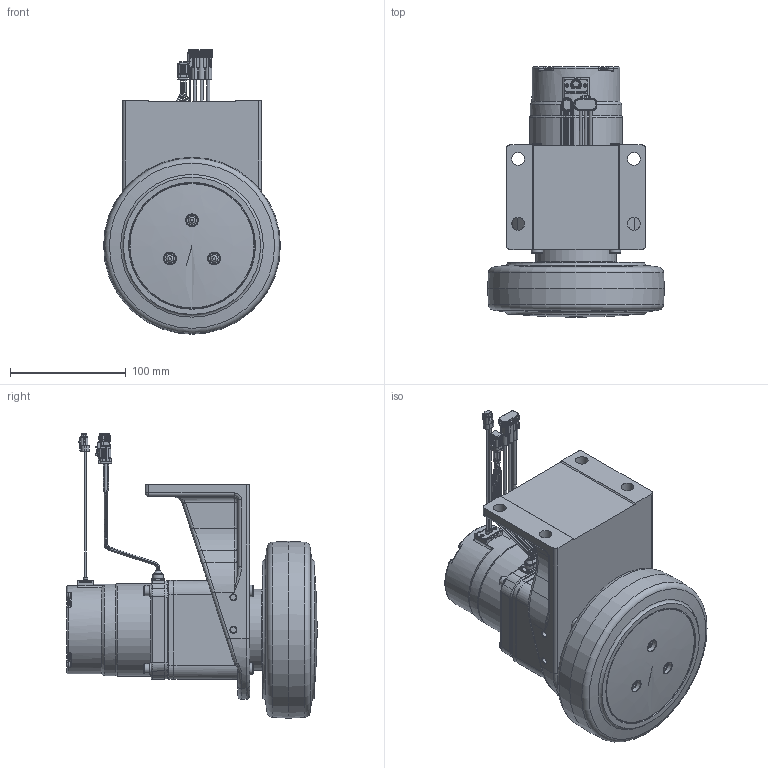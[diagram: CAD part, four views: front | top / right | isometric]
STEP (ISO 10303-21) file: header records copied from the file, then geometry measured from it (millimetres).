
FILE_DESCRIPTION(/* description */ (''),/* implementation_level */ '2;1');
FILE_NAME(/* name */ 'MS94BZF.stp',/* time_stamp */ '2022-10-27T09:42:17+09:00',/* author */ (''),/* organization */ (''),/* preprocessor_version */ 'ST-DEVELOPER v16.7',/* originating_system */ 'SIEMENS PLM Software NX 12.0',/* authorisation */ '');
FILE_SCHEMA (('AUTOMOTIVE_DESIGN { 1 0 10303 214 3 1 1 1 }'));
Products named in the file (6): MS94BZC wheel; MS94BZC_blaket; MS94BZC_Brake-01; MS94BZF_gear; MS94BZC_motor-00; MS94BZF
Assembly tree (5 placements, depth 2):
  MS94BZF
    MS94BZC_motor-00
    MS94BZF_gear
    MS94BZC_Brake-01
    MS94BZC_blaket
    MS94BZC wheel
Bounding box: 152.5 x 215.7 x 245.25 mm (x, y, z)
Volume: 1936412.8 mm3; surface area: 283333.9 mm2
Topology: 7 solids, 20 shells, 2580 faces, 6263 edges, 3785 vertices
Faces by surface type: cylinder 986, plane 909, torus 326, bspline 185, cone 92, sphere 76, revolution 6
Full cylindrical faces by diameter (mm): 1 x42, 1.02 x6, 1.6 x2, 1.7 x2, 1.9 x2, 2.8 x13, 3 x8, 3.01 x2, 3.025 x6, 4.41 x2, 4.5 x5, 5 x9, 5.25 x4, 5.3 x4, 5.55 x4, 6 x8, 6.3 x4, 6.5 x4, 6.8 x1, 7 x4, 8.5 x4, 9.1 x3, 9.2 x4, 10 x4, 10.3 x4, 10.5 x3, 11 x4, 11.5 x4, 13.5 x4, 23.795 x1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
Entity records: 91944 total; most frequent: CARTESIAN_POINT 33628, DIRECTION 12093, ORIENTED_EDGE 11392, EDGE_CURVE 5741, AXIS2_PLACEMENT_3D 4667, VERTEX_POINT 3684, EDGE_LOOP 3128, LINE 2753
